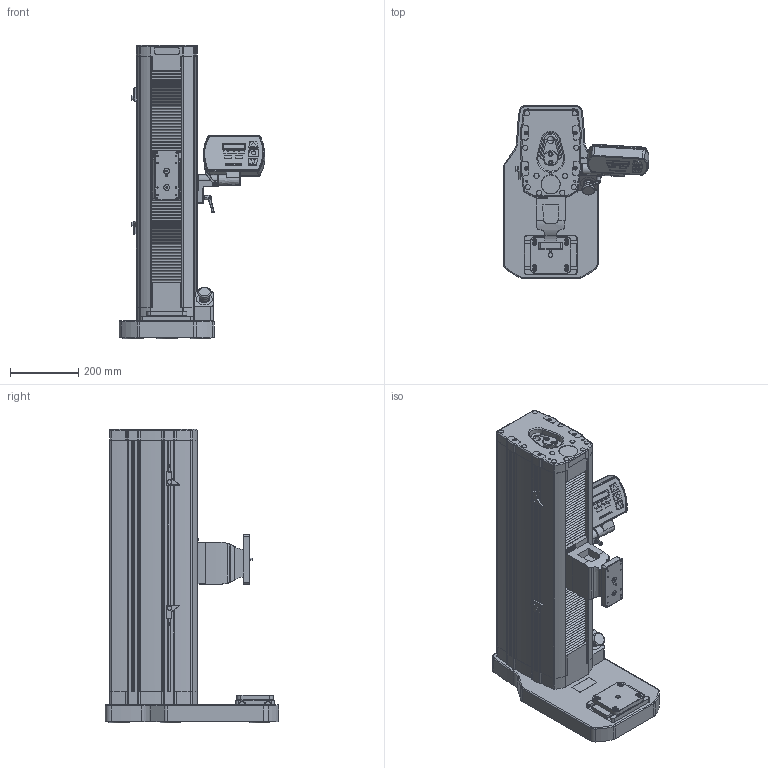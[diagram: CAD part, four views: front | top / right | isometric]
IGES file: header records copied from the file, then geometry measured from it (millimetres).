
Global section: file name: No Iges File Name specified; native system: Autodesk Inventor 2010; preprocessor: AutoDesk Inventor Iges Exporter R2010; author: mlampen; date: 20170913.145440; units: inch
Bounding box: 427.27 x 508 x 861.97 mm (x, y, z)
Volume: 42902040.2 mm3; surface area: 1686575.3 mm2
Topology: 22 solids, 28 shells, 5748 faces, 15041 edges, 9659 vertices
Faces by surface type: plane 2761, cylinder 925, bspline 876, revolution 868, torus 140, cone 138, sphere 40
Full cylindrical faces by diameter (mm): 2.02 x4, 2.845 x4, 5.172 x2, 6.35 x4
